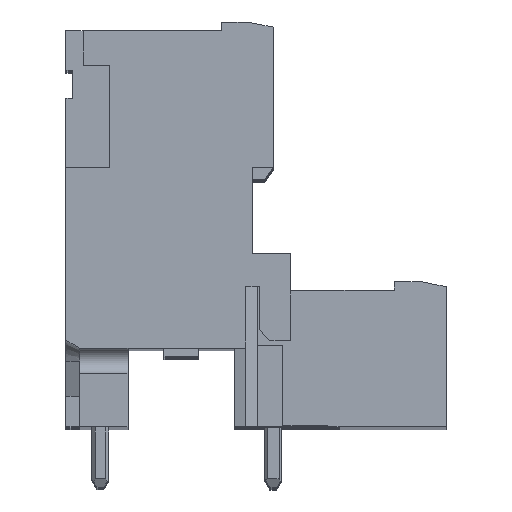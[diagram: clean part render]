
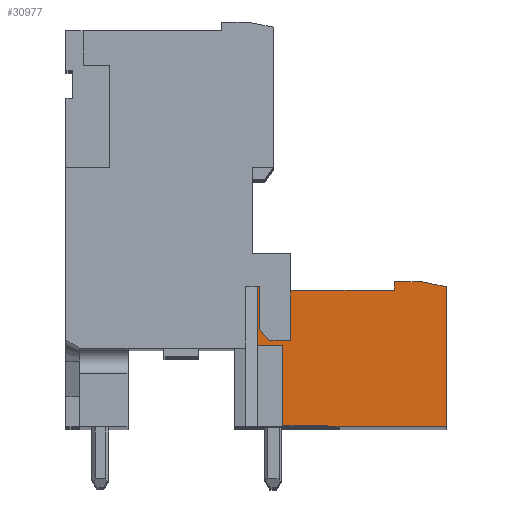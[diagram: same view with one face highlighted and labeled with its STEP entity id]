
A CAD part, top view. The second image highlights one B-rep face of the part: STEP entity #30977.
In plain terms, the highlighted planar face has unit normal (0, 0, 1).
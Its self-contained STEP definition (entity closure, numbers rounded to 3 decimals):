
#1316 = DIRECTION ( 'NONE',  ( 0., 0., -1. ) ) ;
#1889 = CARTESIAN_POINT ( 'NONE',  ( -1.5, 8.4, -2.5 ) ) ;
#3349 = LINE ( 'NONE', #56553, #106972 ) ;
#3688 = DIRECTION ( 'NONE',  ( 1., 0., 0. ) ) ;
#4296 = VERTEX_POINT ( 'NONE', #109015 ) ;
#5114 = CARTESIAN_POINT ( 'NONE',  ( -9.521, 8.101, -2.5 ) ) ;
#6065 = CARTESIAN_POINT ( 'NONE',  ( -10.9, 9., -2.5 ) ) ;
#7575 = CARTESIAN_POINT ( 'NONE',  ( -1.5, 8.4, -2.5 ) ) ;
#9017 = CARTESIAN_POINT ( 'NONE',  ( -10.9, 9., -2.5 ) ) ;
#9418 = DIRECTION ( 'NONE',  ( 0., -1., 0. ) ) ;
#10122 = LINE ( 'NONE', #61608, #23755 ) ;
#10169 = VERTEX_POINT ( 'NONE', #64028 ) ;
#13459 = VERTEX_POINT ( 'NONE', #70966 ) ;
#14957 = ORIENTED_EDGE ( 'NONE', *, *, #110462, .T. ) ;
#15227 = LINE ( 'NONE', #56462, #105122 ) ;
#15579 = CARTESIAN_POINT ( 'NONE',  ( -9., 7.9, -2.5 ) ) ;
#16439 = ORIENTED_EDGE ( 'NONE', *, *, #93681, .F. ) ;
#16840 = EDGE_CURVE ( 'NONE', #58677, #10169, #106359, .T. ) ;
#20569 = EDGE_CURVE ( 'NONE', #13459, #100458, #10122, .T. ) ;
#20717 = VECTOR ( 'NONE', #62843, 1000. ) ;
#21131 = CARTESIAN_POINT ( 'NONE',  ( -3., 8.4, -2.5 ) ) ;
#22669 = LINE ( 'NONE', #101163, #112643 ) ;
#23682 = CARTESIAN_POINT ( 'NONE',  ( -6.2, 0., -2.5 ) ) ;
#23755 = VECTOR ( 'NONE', #9418, 1000. ) ;
#25919 = DIRECTION ( 'NONE',  ( -1., 0.002, 0. ) ) ;
#26064 = PLANE ( 'NONE',  #88821 ) ;
#26355 = CARTESIAN_POINT ( 'NONE',  ( -9.45, 4.717, -2.5 ) ) ;
#27108 = VECTOR ( 'NONE', #40246, 1000. ) ;
#27874 = EDGE_CURVE ( 'NONE', #100458, #60811, #66276, .T. ) ;
#28988 = VECTOR ( 'NONE', #104708, 1000. ) ;
#29051 = DIRECTION ( 'NONE',  ( 0., -1., 0. ) ) ;
#30977 = ADVANCED_FACE ( 'NONE', ( #107898 ), #26064, .F. ) ;
#32154 = DIRECTION ( 'NONE',  ( -1., 0., 0. ) ) ;
#32572 = ORIENTED_EDGE ( 'NONE', *, *, #40264, .T. ) ;
#33397 = DIRECTION ( 'NONE',  ( 0., 1., 0. ) ) ;
#35560 = CARTESIAN_POINT ( 'NONE',  ( -11.6, 0.1, -2.5 ) ) ;
#38056 = EDGE_CURVE ( 'NONE', #112294, #48529, #15227, .T. ) ;
#38129 = CARTESIAN_POINT ( 'NONE',  ( -10., 9., -2.5 ) ) ;
#39040 = ORIENTED_EDGE ( 'NONE', *, *, #103853, .F. ) ;
#40246 = DIRECTION ( 'NONE',  ( -0.997, 0.077, 0. ) ) ;
#40264 = EDGE_CURVE ( 'NONE', #51380, #4296, #89332, .T. ) ;
#40492 = VERTEX_POINT ( 'NONE', #38129 ) ;
#44340 = DIRECTION ( 'NONE',  ( -1., 0., 0. ) ) ;
#44463 = CARTESIAN_POINT ( 'NONE',  ( -10., 9., -2.5 ) ) ;
#44752 = EDGE_CURVE ( 'NONE', #51180, #13459, #88800, .T. ) ;
#45434 = LINE ( 'NONE', #44463, #28988 ) ;
#46989 = ORIENTED_EDGE ( 'NONE', *, *, #81169, .T. ) ;
#48529 = VERTEX_POINT ( 'NONE', #9017 ) ;
#50308 = LINE ( 'NONE', #101945, #27108 ) ;
#50594 = LINE ( 'NONE', #95472, #68326 ) ;
#51180 = VERTEX_POINT ( 'NONE', #7575 ) ;
#51380 = VERTEX_POINT ( 'NONE', #5114 ) ;
#52340 = LINE ( 'NONE', #21131, #72794 ) ;
#53560 = EDGE_CURVE ( 'NONE', #60811, #82750, #50308, .T. ) ;
#54011 = LINE ( 'NONE', #6065, #86669 ) ;
#55396 = VECTOR ( 'NONE', #25919, 1000. ) ;
#56462 = CARTESIAN_POINT ( 'NONE',  ( -10.9, 0.1, -2.5 ) ) ;
#56553 = CARTESIAN_POINT ( 'NONE',  ( -12., 7.9, -2.5 ) ) ;
#58397 = VERTEX_POINT ( 'NONE', #74483 ) ;
#58677 = VERTEX_POINT ( 'NONE', #26355 ) ;
#59536 = LINE ( 'NONE', #100046, #79947 ) ;
#60543 = ORIENTED_EDGE ( 'NONE', *, *, #38056, .F. ) ;
#60811 = VERTEX_POINT ( 'NONE', #23682 ) ;
#61608 = CARTESIAN_POINT ( 'NONE',  ( 0., 8.1, -2.5 ) ) ;
#62139 = ORIENTED_EDGE ( 'NONE', *, *, #68300, .F. ) ;
#62843 = DIRECTION ( 'NONE',  ( 0.981, -0.196, 0. ) ) ;
#63232 = CARTESIAN_POINT ( 'NONE',  ( 0., 0., -2.5 ) ) ;
#63523 = VECTOR ( 'NONE', #107968, 1000. ) ;
#63706 = CARTESIAN_POINT ( 'NONE',  ( -3., 7.9, -2.5 ) ) ;
#64028 = CARTESIAN_POINT ( 'NONE',  ( -9.45, 0.1, -2.5 ) ) ;
#64580 = CARTESIAN_POINT ( 'NONE',  ( -9.521, 7.9, -2.5 ) ) ;
#64941 = VERTEX_POINT ( 'NONE', #91279 ) ;
#65645 = DIRECTION ( 'NONE',  ( 0., 1., 0. ) ) ;
#66276 = LINE ( 'NONE', #107617, #63523 ) ;
#68300 = EDGE_CURVE ( 'NONE', #64941, #51180, #52340, .T. ) ;
#68326 = VECTOR ( 'NONE', #79117, 1000. ) ;
#70966 = CARTESIAN_POINT ( 'NONE',  ( 0., 8.1, -2.5 ) ) ;
#72620 = DIRECTION ( 'NONE',  ( 1., 0., 0. ) ) ;
#72794 = VECTOR ( 'NONE', #3688, 1000. ) ;
#73743 = CARTESIAN_POINT ( 'NONE',  ( -7.5, 0.1, -2.5 ) ) ;
#74043 = DIRECTION ( 'NONE',  ( 1., 0., 0. ) ) ;
#74483 = CARTESIAN_POINT ( 'NONE',  ( -3., 7.9, -2.5 ) ) ;
#75348 = DIRECTION ( 'NONE',  ( -1., 0., 0. ) ) ;
#78535 = ORIENTED_EDGE ( 'NONE', *, *, #53560, .F. ) ;
#79117 = DIRECTION ( 'NONE',  ( 1., 0., 0. ) ) ;
#79489 = EDGE_CURVE ( 'NONE', #58397, #64941, #104840, .T. ) ;
#79947 = VECTOR ( 'NONE', #72620, 1000. ) ;
#81169 = EDGE_CURVE ( 'NONE', #4296, #40492, #45434, .T. ) ;
#82421 = EDGE_CURVE ( 'NONE', #100284, #58397, #50594, .T. ) ;
#82750 = VERTEX_POINT ( 'NONE', #73743 ) ;
#83901 = CARTESIAN_POINT ( 'NONE',  ( -10., 8.102, -2.5 ) ) ;
#84515 = CARTESIAN_POINT ( 'NONE',  ( -9.521, 9.333, -2.5 ) ) ;
#84707 = ORIENTED_EDGE ( 'NONE', *, *, #27874, .F. ) ;
#85880 = VECTOR ( 'NONE', #33397, 1000. ) ;
#85984 = ORIENTED_EDGE ( 'NONE', *, *, #16840, .T. ) ;
#86669 = VECTOR ( 'NONE', #75348, 1000. ) ;
#87312 = ORIENTED_EDGE ( 'NONE', *, *, #79489, .F. ) ;
#87853 = EDGE_CURVE ( 'NONE', #99517, #51380, #109138, .T. ) ;
#88800 = LINE ( 'NONE', #1889, #20717 ) ;
#88821 = AXIS2_PLACEMENT_3D ( 'NONE', #35560, #1316, #44340 ) ;
#89332 = LINE ( 'NONE', #83901, #55396 ) ;
#91116 = VECTOR ( 'NONE', #97546, 1000. ) ;
#91279 = CARTESIAN_POINT ( 'NONE',  ( -3., 8.4, -2.5 ) ) ;
#93681 = EDGE_CURVE ( 'NONE', #99517, #100284, #3349, .T. ) ;
#95472 = CARTESIAN_POINT ( 'NONE',  ( -12., 7.9, -2.5 ) ) ;
#95491 = ORIENTED_EDGE ( 'NONE', *, *, #44752, .F. ) ;
#97546 = DIRECTION ( 'NONE',  ( 0., 1., 0. ) ) ;
#99517 = VERTEX_POINT ( 'NONE', #64580 ) ;
#99941 = CARTESIAN_POINT ( 'NONE',  ( -9.45, 0.1, -2.5 ) ) ;
#100046 = CARTESIAN_POINT ( 'NONE',  ( -10.944, 4.717, -2.5 ) ) ;
#100284 = VERTEX_POINT ( 'NONE', #15579 ) ;
#100293 = EDGE_LOOP ( 'NONE', ( #108277, #85984, #39040, #78535, #84707, #108016, #95491, #62139, #87312, #104848, #16439, #108817, #32572, #46989, #14957, #60543 ) ) ;
#100458 = VERTEX_POINT ( 'NONE', #63232 ) ;
#101163 = CARTESIAN_POINT ( 'NONE',  ( -7.5, 0.1, -2.5 ) ) ;
#101945 = CARTESIAN_POINT ( 'NONE',  ( -6.2, 0., -2.5 ) ) ;
#103818 = EDGE_CURVE ( 'NONE', #112294, #58677, #59536, .T. ) ;
#103853 = EDGE_CURVE ( 'NONE', #82750, #10169, #22669, .T. ) ;
#104708 = DIRECTION ( 'NONE',  ( 0., 1., 0. ) ) ;
#104840 = LINE ( 'NONE', #63706, #91116 ) ;
#104848 = ORIENTED_EDGE ( 'NONE', *, *, #82421, .F. ) ;
#105122 = VECTOR ( 'NONE', #65645, 1000. ) ;
#106359 = LINE ( 'NONE', #99941, #113125 ) ;
#106972 = VECTOR ( 'NONE', #74043, 1000. ) ;
#107617 = CARTESIAN_POINT ( 'NONE',  ( 0., 0., -2.5 ) ) ;
#107898 = FACE_OUTER_BOUND ( 'NONE', #100293, .T. ) ;
#107968 = DIRECTION ( 'NONE',  ( -1., 0., 0. ) ) ;
#108016 = ORIENTED_EDGE ( 'NONE', *, *, #20569, .F. ) ;
#108277 = ORIENTED_EDGE ( 'NONE', *, *, #103818, .T. ) ;
#108817 = ORIENTED_EDGE ( 'NONE', *, *, #87853, .T. ) ;
#109015 = CARTESIAN_POINT ( 'NONE',  ( -10., 8.102, -2.5 ) ) ;
#109138 = LINE ( 'NONE', #84515, #85880 ) ;
#110462 = EDGE_CURVE ( 'NONE', #40492, #48529, #54011, .T. ) ;
#112294 = VERTEX_POINT ( 'NONE', #112309 ) ;
#112309 = CARTESIAN_POINT ( 'NONE',  ( -10.9, 4.717, -2.5 ) ) ;
#112643 = VECTOR ( 'NONE', #32154, 1000. ) ;
#113125 = VECTOR ( 'NONE', #29051, 1000. ) ;
